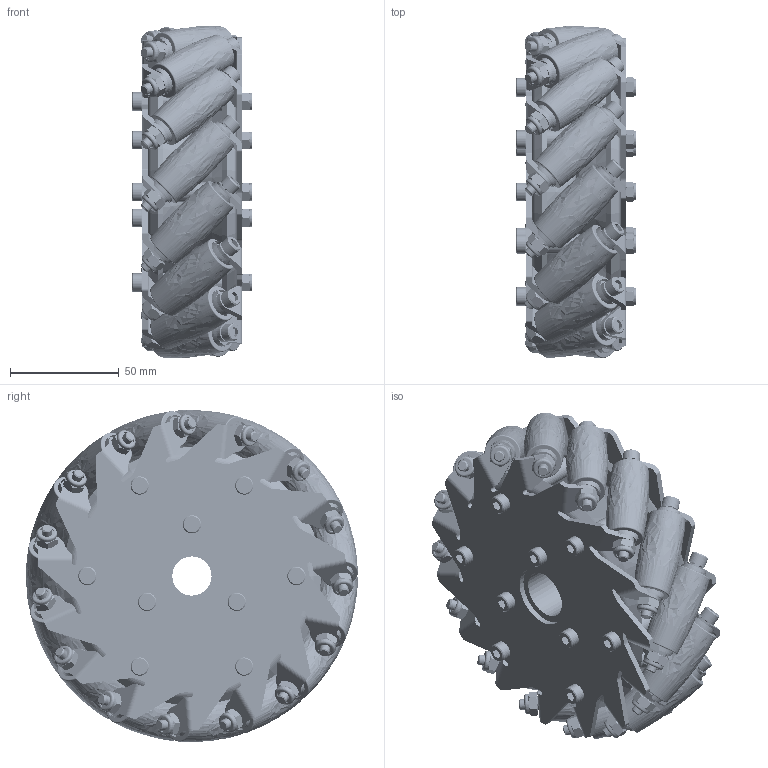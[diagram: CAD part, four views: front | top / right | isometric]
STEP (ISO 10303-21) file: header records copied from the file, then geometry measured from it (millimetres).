
FILE_DESCRIPTION(('Open CASCADE Model'),'2;1');
FILE_NAME('MM111-R.STEP','2026-10-18T18:15:02',('Author'),( 'Open CASCADE'),'Open CASCADE STEP processor 7.9','Open CASCADE 7.9' ,'Unknown');
FILE_SCHEMA(('AUTOMOTIVE_DESIGN { 1 0 10303 214 1 1 1 1 }'));
Length unit declared in the file: millimetre
Products named in the file (27): MM111-R; Open CASCADE STEP translator 7.9 6.1; Open CASCADE STEP translator 7.9 6.1.1; Open CASCADE STEP translator 7.9 6.1.3; Open CASCADE STEP translator 7.9 6.1.4; Open CASCADE STEP translator 7.9 6.1.4.1; Open CASCADE STEP translator 7.9 6.1.4.2; Open CASCADE STEP translator 7.9 6.1.4.4; Open CASCADE STEP translator 7.9 6.1.4.4.1; Open CASCADE STEP translator 7.9 6.1.4.4.2; Open CASCADE STEP translator 7.9 6.1.4.4.2.1; Open CASCADE STEP translator 7.9 6.1.4.4.2.2; Open CASCADE STEP translator 7.9 6.1.4.5; Open CASCADE STEP translator 7.9 6.1.21; Open CASCADE STEP translator 7.9 6.1.28; Open CASCADE STEP translator 7.9 6.1.28.1; Open CASCADE STEP translator 7.9 6.2; Open CASCADE STEP translator 7.9 6.3; Open CASCADE STEP translator 7.9 6.4; Open CASCADE STEP translator 7.9 6.19; Open CASCADE STEP translator 7.9 6.19.1; Open CASCADE STEP translator 7.9 6.19.2; Open CASCADE STEP translator 7.9 6.34; Open CASCADE STEP translator 7.9 6.35; Open CASCADE STEP translator 7.9 6.41; Open CASCADE STEP translator 7.9 6.71; Open CASCADE STEP translator 7.9 6.72
Assembly tree (149 placements, depth 6):
  MM111-R
    Open CASCADE STEP translator 7.9 6.1
      Open CASCADE STEP translator 7.9 6.1.1  x15
      Open CASCADE STEP translator 7.9 6.1.3  x15
      Open CASCADE STEP translator 7.9 6.1.4  x15
        Open CASCADE STEP translator 7.9 6.1.4.1
        Open CASCADE STEP translator 7.9 6.1.4.2
        Open CASCADE STEP translator 7.9 6.1.4.4
          Open CASCADE STEP translator 7.9 6.1.4.4.1
          Open CASCADE STEP translator 7.9 6.1.4.4.2
            Open CASCADE STEP translator 7.9 6.1.4.4.2.1
            Open CASCADE STEP translator 7.9 6.1.4.4.2.2
        Open CASCADE STEP translator 7.9 6.1.4.5
      Open CASCADE STEP translator 7.9 6.1.21  x2
      Open CASCADE STEP translator 7.9 6.1.28
        Open CASCADE STEP translator 7.9 6.1.28.1  x2
    Open CASCADE STEP translator 7.9 6.2
    Open CASCADE STEP translator 7.9 6.3
    Open CASCADE STEP translator 7.9 6.4  x15
    Open CASCADE STEP translator 7.9 6.19  x15
      Open CASCADE STEP translator 7.9 6.19.1
      Open CASCADE STEP translator 7.9 6.19.2
    Open CASCADE STEP translator 7.9 6.34
    Open CASCADE STEP translator 7.9 6.35  x6
    Open CASCADE STEP translator 7.9 6.41  x30
    Open CASCADE STEP translator 7.9 6.71  x9
    Open CASCADE STEP translator 7.9 6.72  x9
Bounding box: 55.52 x 152.43 x 152.4 mm (x, y, z)
Volume: 600958.7 mm3; surface area: 491169.5 mm2
Topology: 210 solids, 240 shells, 5537 faces, 12532 edges, 7845 vertices
Faces by surface type: plane 2908, cylinder 1352, cone 446, torus 441, sphere 180, revolution 150, bspline 60
Entity records: 73657 total; most frequent: CARTESIAN_POINT 24230, DIRECTION 9317, ORIENTED_EDGE 4826, PCURVE 4826, DEFINITIONAL_REPRESENTATION 4826, LINE 4742, VECTOR 4742, EDGE_CURVE 2417
